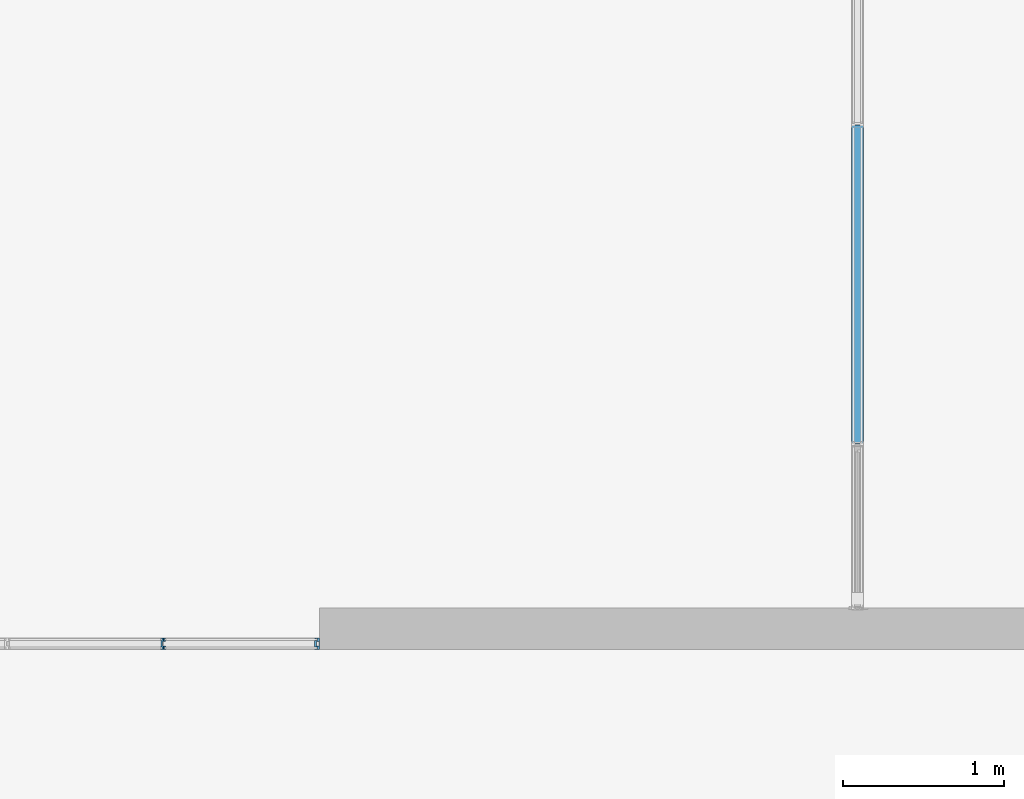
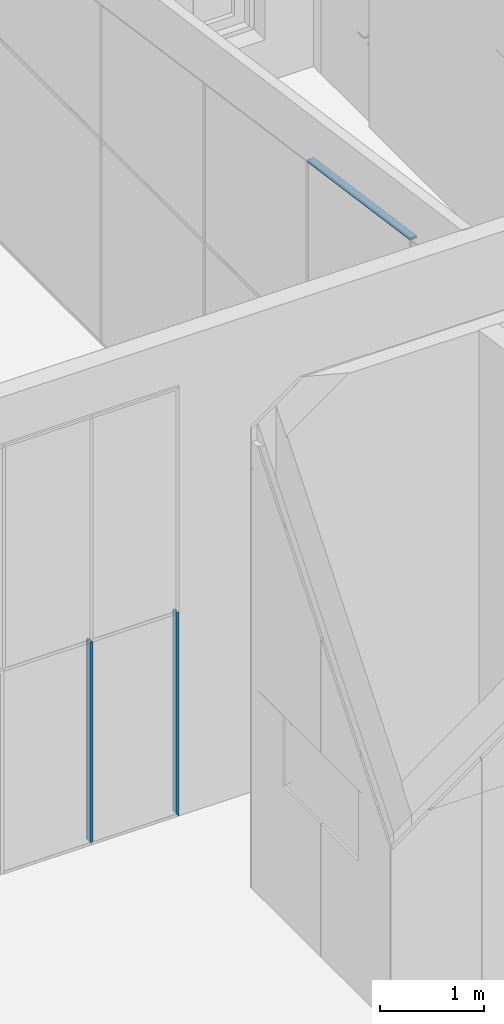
# One storey, part 14 of 246: 3 members, 2 elements without a shape of their own.
"""IFC2X3 building model written with IfcOpenShell, lengths in millimetres."""

from ifc_helpers import new_model, entity, si_unit, converted_unit, derived_unit, money_unit, direction, frame, origin_with_axes, place, context, subcontext, project, spatial, faceted_brep, source, transform, mapped, material, material_list, type_object, element, aggregate, save


model = new_model("IFC2X3")

# Units and contexts
model_context = context("Model", 3, precision=0.01, world=origin_with_axes(), true_north=direction((0.0, 1.0)))
body_context = subcontext(model_context, "Body", "Model", "MODEL_VIEW")
ifc_project = project(units=[si_unit("LENGTHUNIT", "METRE", prefix="MILLI"), si_unit("AREAUNIT", "SQUARE_METRE"), si_unit("VOLUMEUNIT", "CUBIC_METRE"), converted_unit("PLANEANGLEUNIT", "DEGREE", entity("IfcPlaneAngleMeasure", 0.0174532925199), si_unit("PLANEANGLEUNIT", "RADIAN"), dimensions=[0, 0, 0, 0, 0, 0, 0]), si_unit("SOLIDANGLEUNIT", "STERADIAN"), money_unit("EUR"), converted_unit("TIMEUNIT", "Year", entity("IfcTimeMeasure", 31556926.0), si_unit("TIMEUNIT", "SECOND"), dimensions=[0, 0, 1, 0, 0, 0, 0]), si_unit("MASSUNIT", "GRAM", prefix="KILO"), si_unit("THERMODYNAMICTEMPERATUREUNIT", "DEGREE_CELSIUS"), si_unit("LUMINOUSINTENSITYUNIT", "LUMEN"), si_unit("ENERGYUNIT", "JOULE", prefix="MEGA"), derived_unit("THERMALCONDUCTANCEUNIT", [(si_unit("POWERUNIT", "WATT"), 1), (si_unit("LENGTHUNIT", "METRE"), -1), (si_unit("THERMODYNAMICTEMPERATUREUNIT", "KELVIN"), -1)]), derived_unit("SPECIFICHEATCAPACITYUNIT", [(si_unit("ENERGYUNIT", "JOULE"), 1), (si_unit("MASSUNIT", "GRAM", prefix="KILO"), -1), (si_unit("THERMODYNAMICTEMPERATUREUNIT", "KELVIN"), -1)]), derived_unit("MASSDENSITYUNIT", [(si_unit("MASSUNIT", "GRAM", prefix="KILO"), 1), (si_unit("VOLUMEUNIT", "CUBIC_METRE"), -1)])], contexts=[model_context])

# Site, building, storey
site_placement = place(None, origin_with_axes())
site = spatial("IfcSite", under=ifc_project, at=site_placement, Name="L.Koidula tn 11b", CompositionType="ELEMENT")
building_placement = place(site_placement, origin_with_axes())
building = spatial("IfcBuilding", under=site, at=building_placement, Name="Rakvere Riigigümnaasium", CompositionType="ELEMENT")
storey_placement = place(building_placement, origin_with_axes())
storey = spatial("IfcBuildingStorey", under=building, at=storey_placement, Name="1.korrus 0,00", CompositionType="ELEMENT", Elevation=0.0)

# Curtain wall, member
curtain_wall_type = type_object("IfcCurtainWallType", Name="Curtain Wall Type", PredefinedType="NOTDEFINED")
curtain_wall_1_placement = place(storey_placement, frame((32835.0202258, 67589.2016838, 0.0), z_axis=(0.0, 0.0, 1.0), x_axis=(1.0, 0.0, 0.0)))
curtain_wall_1 = element("IfcCurtainWall", 1, at=curtain_wall_1_placement, inside=storey, type_object=curtain_wall_type, Name="SKLF-02")
ifc_material_1 = material(Name="Klaasvill")
ifc_material_2 = material(Name="Teras RAL7012")
ifc_material_list = material_list([ifc_material_1, ifc_material_2])
member_type_1 = type_object("IfcMemberType", Name="Boundary Frame 30 x 42", PredefinedType="MULLION")
shared_shape_1 = source(origin_with_axes(), body_context, "Body", "Brep", [
    faceted_brep([(7.49999990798, 15.000000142, -1.53444652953e-06), (13.8499999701, 15.000000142, -1.53444652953e-06), (13.8499999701, 15.000000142, 2007.53714433), (7.49999990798, 15.000000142, 2007.53714433), (7.49999990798, 29.0161444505, -1.53444652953e-06), (13.8499999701, 29.0161444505, -1.53444652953e-06), (13.8499999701, 29.0161444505, 2007.53714433), (7.49999990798, 29.0161444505, 2007.53714433)], [[[0, 1, 2, 3]], [[0, 4, 5, 1]], [[1, 5, 6, 2]], [[3, 2, 6, 7]], [[4, 0, 3, 7]], [[5, 4, 7, 6]]]),
    faceted_brep([(24.987414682, 29.0161444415, -1.53444652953e-06), (25.004489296, 27.0307503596, -1.53444652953e-06), (25.004489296, 27.0307503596, 2007.53714433), (24.987414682, 29.0161444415, 2007.53714433), (28.5126239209, 29.0161444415, -1.53444652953e-06), (28.7655837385, 28.0385325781, -1.53444652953e-06), (28.4955493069, 27.0307503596, -1.53444652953e-06), (27.75780152, 26.2930025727, -1.53444652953e-06), (26.7500193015, 26.0229681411, -1.53444652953e-06), (25.742237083, 26.2930025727, -1.53444652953e-06), (25.742237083, 26.2930025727, 2007.53714433), (26.7500193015, 26.0229681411, 2007.53714433), (27.75780152, 26.2930025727, 2007.53714433), (28.4955493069, 27.0307503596, 2007.53714433), (28.7655837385, 28.0385325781, 2007.53714433), (28.5126239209, 29.0161444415, 2007.53714433)], [[[0, 1, 2, 3]], [[0, 4, 5, 6, 7, 8, 9, 1]], [[1, 9, 10, 2]], [[3, 2, 10, 11, 12, 13, 14, 15]], [[4, 0, 3, 15]], [[5, 4, 15, 14]], [[6, 5, 14, 13]], [[7, 6, 13, 12]], [[8, 7, 12, 11]], [[9, 8, 11, 10]]]),
    faceted_brep([(7.49999990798, -24.9999997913, -1.53444652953e-06), (7.49999990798, -39.0161445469, -1.53444652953e-06), (7.49999990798, -39.0161445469, 2007.53714433), (7.49999990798, -24.9999997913, 2007.53714433), (13.8499999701, -24.9999997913, -1.53444652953e-06), (13.8499999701, -39.0161445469, -1.53444652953e-06), (13.8499999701, -39.0161445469, 2007.53714433), (13.8499999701, -24.9999997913, 2007.53714433)], [[[0, 1, 2, 3]], [[0, 4, 5, 1]], [[1, 5, 6, 2]], [[3, 2, 6, 7]], [[4, 0, 3, 7]], [[5, 4, 7, 6]]]),
    faceted_brep([(25.004489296, -37.0307503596, -1.53444652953e-06), (24.987414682, -39.0161444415, -1.53444652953e-06), (24.987414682, -39.0161444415, 2007.53714433), (25.004489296, -37.0307503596, 2007.53714433), (25.742237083, -36.2930025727, -1.53444652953e-06), (26.7500193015, -36.0229681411, -1.53444652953e-06), (27.75780152, -36.2930025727, -1.53444652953e-06), (28.4955493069, -37.0307503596, -1.53444652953e-06), (28.7655837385, -38.0385325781, -1.53444652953e-06), (28.5126239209, -39.0161444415, -1.53444652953e-06), (28.5126239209, -39.0161444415, 2007.53714433), (28.7655837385, -38.0385325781, 2007.53714433), (28.4955493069, -37.0307503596, 2007.53714433), (27.75780152, -36.2930025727, 2007.53714433), (26.7500193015, -36.0229681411, 2007.53714433), (25.742237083, -36.2930025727, 2007.53714433)], [[[0, 1, 2, 3]], [[0, 4, 5, 6, 7, 8, 9, 1]], [[1, 9, 10, 2]], [[3, 2, 10, 11, 12, 13, 14, 15]], [[4, 0, 3, 15]], [[5, 4, 15, 14]], [[6, 5, 14, 13]], [[7, 6, 13, 12]], [[8, 7, 12, 11]], [[9, 8, 11, 10]]]),
    faceted_brep([(0.0, -22.0000000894, -1.53444652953e-06), (29.5999996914, -22.0000000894, -1.53444652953e-06), (29.5999996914, -22.0000000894, 2007.53714433), (0.0, -22.0000000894, 2007.53714433), (0.0, 12.0000000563, -1.53444652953e-06), (29.5999996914, 12.0000000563, -1.53444652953e-06), (1.9999999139, 10.0000001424, -1.53444652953e-06), (1.9999999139, -20.0000001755, -1.53444652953e-06), (18.7999996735, -20.0000001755, -1.53444652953e-06), (18.7999996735, 10.0000001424, -1.53444652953e-06), (29.5999996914, 12.0000000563, 2007.53714433), (0.0, 12.0000000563, 2007.53714433), (1.9999999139, 10.0000001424, 2007.53714433), (18.7999996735, 10.0000001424, 2007.53714433), (18.7999996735, -20.0000001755, 2007.53714433), (1.9999999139, -20.0000001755, 2007.53714433)], [[[0, 1, 2, 3]], [[0, 4, 5, 1], [6, 7, 8, 9]], [[1, 5, 10, 2]], [[3, 2, 10, 11], [12, 13, 14, 15]], [[4, 0, 3, 11]], [[5, 4, 11, 10]], [[7, 6, 12, 15]], [[8, 7, 15, 14]], [[9, 8, 14, 13]], [[6, 9, 13, 12]]]),
    faceted_brep([(0.0, 12.0, -1.53444652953e-06), (29.5999996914, 12.0000000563, -1.53444652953e-06), (29.5999996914, 12.0000000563, 2007.53714433), (0.0, 12.0, 2007.53714433), (0.0, 32.0, -1.53444652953e-06), (30.0000193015, 32.0, -1.53444652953e-06), (30.0000193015, 29.0161444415, -1.53444652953e-06), (28.5126239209, 29.0161444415, -1.53444652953e-06), (24.987414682, 29.0161444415, -1.53444652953e-06), (13.8499999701, 29.0161444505, -1.53444652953e-06), (7.49999999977, 29.0161444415, -1.53444652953e-06), (7.49999999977, 15.0, -1.53444652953e-06), (13.8499999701, 15.000000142, -1.53444652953e-06), (30.0000193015, 15.0, -1.53444652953e-06), (30.0000193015, 12.0, -1.53444652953e-06), (30.0000193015, 12.0, 2007.53714433), (30.0000193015, 15.0, 2007.53714433), (13.8499999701, 15.000000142, 2007.53714433), (7.49999999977, 15.0, 2007.53714433), (7.49999999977, 29.0161444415, 2007.53714433), (13.8499999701, 29.0161444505, 2007.53714433), (24.987414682, 29.0161444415, 2007.53714433), (28.5126239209, 29.0161444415, 2007.53714433), (30.0000193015, 29.0161444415, 2007.53714433), (30.0000193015, 32.0, 2007.53714433), (0.0, 32.0, 2007.53714433)], [[[0, 1, 2, 3]], [[0, 4, 5, 6, 7, 8, 9, 10, 11, 12, 13, 14, 1]], [[1, 14, 15, 2]], [[3, 2, 15, 16, 17, 18, 19, 20, 21, 22, 23, 24, 25]], [[4, 0, 3, 25]], [[5, 4, 25, 24]], [[6, 5, 24, 23]], [[7, 6, 23, 22]], [[8, 7, 22, 21]], [[9, 8, 21, 20]], [[10, 9, 20, 19]], [[11, 10, 19, 18]], [[12, 11, 18, 17]], [[13, 12, 17, 16]], [[14, 13, 16, 15]]]),
    faceted_brep([(0.0, -22.0, -1.53444652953e-06), (0.0, -42.0, -1.53444652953e-06), (0.0, -42.0, 2007.53714433), (0.0, -22.0, 2007.53714433), (29.5999996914, -22.0000000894, -1.53444652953e-06), (30.0000193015, -22.0, -1.53444652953e-06), (30.0000193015, -25.0, -1.53444652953e-06), (13.8499999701, -24.9999997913, -1.53444652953e-06), (7.49999999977, -25.0, -1.53444652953e-06), (7.49999999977, -39.0161444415, -1.53444652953e-06), (13.8499999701, -39.0161445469, -1.53444652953e-06), (24.987414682, -39.0161444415, -1.53444652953e-06), (28.5126239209, -39.0161444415, -1.53444652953e-06), (30.0000193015, -39.0161444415, -1.53444652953e-06), (30.0000193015, -42.0, -1.53444652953e-06), (30.0000193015, -42.0, 2007.53714433), (30.0000193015, -39.0161444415, 2007.53714433), (28.5126239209, -39.0161444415, 2007.53714433), (24.987414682, -39.0161444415, 2007.53714433), (13.8499999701, -39.0161445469, 2007.53714433), (7.49999999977, -39.0161444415, 2007.53714433), (7.49999999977, -25.0, 2007.53714433), (13.8499999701, -24.9999997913, 2007.53714433), (30.0000193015, -25.0, 2007.53714433), (30.0000193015, -22.0, 2007.53714433), (29.5999996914, -22.0000000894, 2007.53714433)], [[[0, 1, 2, 3]], [[0, 4, 5, 6, 7, 8, 9, 10, 11, 12, 13, 14, 1]], [[1, 14, 15, 2]], [[3, 2, 15, 16, 17, 18, 19, 20, 21, 22, 23, 24, 25]], [[4, 0, 3, 25]], [[5, 4, 25, 24]], [[6, 5, 24, 23]], [[7, 6, 23, 22]], [[8, 7, 22, 21]], [[9, 8, 21, 20]], [[10, 9, 20, 19]], [[11, 10, 19, 18]], [[12, 11, 18, 17]], [[13, 12, 17, 16]], [[14, 13, 16, 15]]]),
])
member_1_placement = place(curtain_wall_1_placement, frame((0.0, -4968.75, 4868.37541486), z_axis=(0.0, 0.99001904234, -0.140933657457), x_axis=(0.0, -0.140933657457, -0.99001904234)))
member_1 = element("IfcMember", 2, at=member_1_placement, type_object=member_type_1, material=ifc_material_list, Name="SKLF-14-raam", ObjectType="MULLION", context=body_context, shape_type="MappedRepresentation", body=[
    mapped(shared_shape_1, transform((0.0, 0.0, 0.0))),
])
aggregate(curtain_wall_1, [member_1])

# Curtain wall, members
curtain_wall_2_placement = place(storey_placement, frame((26572.4999007, 61372.4546496, 0.0), z_axis=(0.0, 0.0, 1.0), x_axis=(1.0, 0.0, 0.0)))
curtain_wall_2 = element("IfcCurtainWall", 3, at=curtain_wall_2_placement, inside=storey, type_object=curtain_wall_type, Name="SKLF-01")
member_type_2 = type_object("IfcMemberType", Name="Siseklaasfassaad-Vaheprofiil-Doubleline30 34 x 42", PredefinedType="MULLION")
shared_shape_2 = source(origin_with_axes(), body_context, "Body", "Brep", [
    faceted_brep([(15.5126239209, 29.0161444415, 2384.48737608), (15.7655837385, 28.0385325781, 2384.23441626), (15.7655837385, 28.0385325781, 30.0000193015), (15.5126239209, 29.0161444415, 30.0000193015), (15.4955493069, 27.0307503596, 2384.50445069), (11.987414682, 29.0161444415, 2388.01258532), (12.004489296, 27.0307503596, 2387.9955107), (12.742237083, 26.2930025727, 2387.25776292), (13.7500193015, 26.0229681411, 2386.2499807), (14.75780152, 26.2930025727, 2385.24219848), (15.4955493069, 27.0307503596, 30.0000193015), (14.75780152, 26.2930025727, 30.0000193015), (13.7500193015, 26.0229681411, 30.0000193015), (12.742237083, 26.2930025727, 30.0000193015), (12.004489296, 27.0307503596, 30.0000193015), (11.987414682, 29.0161444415, 30.0000193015)], [[[0, 1, 2, 3]], [[4, 1, 0, 5, 6, 7, 8, 9]], [[1, 4, 10, 2]], [[2, 10, 11, 12, 13, 14, 15, 3]], [[5, 0, 3, 15]], [[6, 5, 15, 14]], [[7, 6, 14, 13]], [[8, 7, 13, 12]], [[9, 8, 12, 11]], [[4, 9, 11, 10]]]),
    faceted_brep([(15.4955493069, -37.0307503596, 2384.50445069), (15.5126239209, -39.0161444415, 2384.48737608), (15.5126239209, -39.0161444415, 30.0000193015), (15.4955493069, -37.0307503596, 30.0000193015), (11.987414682, -39.0161444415, 2388.01258532), (14.75780152, -36.2930025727, 2385.24219848), (13.7500193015, -36.0229681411, 2386.2499807), (12.742237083, -36.2930025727, 2387.25776292), (12.004489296, -37.0307503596, 2387.9955107), (11.7344548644, -38.0385325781, 2388.26554514), (11.987414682, -39.0161444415, 30.0000193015), (11.7344548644, -38.0385325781, 30.0000193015), (12.004489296, -37.0307503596, 30.0000193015), (12.742237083, -36.2930025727, 30.0000193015), (13.7500193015, -36.0229681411, 30.0000193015), (14.75780152, -36.2930025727, 30.0000193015)], [[[0, 1, 2, 3]], [[4, 1, 0, 5, 6, 7, 8, 9]], [[1, 4, 10, 2]], [[2, 10, 11, 12, 13, 14, 15, 3]], [[5, 0, 3, 15]], [[6, 5, 15, 14]], [[7, 6, 14, 13]], [[8, 7, 13, 12]], [[9, 8, 12, 11]], [[4, 9, 11, 10]]]),
    faceted_brep([(-11.987414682, 29.0161444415, 2388.01258532), (-11.7344548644, 28.0385325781, 2388.26554514), (-11.7344548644, 28.0385325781, 30.0000193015), (-11.987414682, 29.0161444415, 30.0000193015), (-12.004489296, 27.0307503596, 2387.9955107), (-15.7655837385, 28.0385325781, 2384.23441626), (-15.4955493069, 27.0307503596, 2384.50445069), (-14.75780152, 26.2930025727, 2385.24219848), (-13.7500193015, 26.0229681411, 2386.2499807), (-12.742237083, 26.2930025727, 2387.25776292), (-12.004489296, 27.0307503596, 30.0000193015), (-12.742237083, 26.2930025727, 30.0000193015), (-13.7500193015, 26.0229681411, 30.0000193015), (-14.75780152, 26.2930025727, 30.0000193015), (-15.4955493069, 27.0307503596, 30.0000193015), (-15.7655837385, 28.0385325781, 30.0000193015)], [[[0, 1, 2, 3]], [[4, 1, 0, 5, 6, 7, 8, 9]], [[1, 4, 10, 2]], [[2, 10, 11, 12, 13, 14, 15, 3]], [[5, 0, 3, 15]], [[6, 5, 15, 14]], [[7, 6, 14, 13]], [[8, 7, 13, 12]], [[9, 8, 12, 11]], [[4, 9, 11, 10]]]),
    faceted_brep([(-12.004489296, -37.0307503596, 2387.9955107), (-11.7344548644, -38.0385325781, 2388.26554514), (-11.7344548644, -38.0385325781, 30.0000193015), (-12.004489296, -37.0307503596, 30.0000193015), (-11.987414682, -39.0161444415, 2388.01258532), (-12.742237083, -36.2930025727, 2387.25776292), (-13.7500193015, -36.0229681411, 2386.2499807), (-14.75780152, -36.2930025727, 2385.24219848), (-15.4955493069, -37.0307503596, 2384.50445069), (-15.5126239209, -39.0161444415, 2384.48737608), (-11.987414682, -39.0161444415, 30.0000193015), (-15.5126239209, -39.0161444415, 30.0000193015), (-15.4955493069, -37.0307503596, 30.0000193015), (-14.75780152, -36.2930025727, 30.0000193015), (-13.7500193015, -36.0229681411, 30.0000193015), (-12.742237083, -36.2930025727, 30.0000193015)], [[[0, 1, 2, 3]], [[4, 1, 0, 5, 6, 7, 8, 9]], [[1, 4, 10, 2]], [[2, 10, 11, 12, 13, 14, 15, 3]], [[5, 0, 3, 15]], [[6, 5, 15, 14]], [[7, 6, 14, 13]], [[8, 7, 13, 12]], [[9, 8, 12, 11]], [[4, 9, 11, 10]]]),
    faceted_brep([(4.0000003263, -20.0000001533, 2395.99999967), (4.0000003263, 10.0000001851, 2395.99999967), (4.0000003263, 10.0000001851, 30.0000193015), (4.0000003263, -20.0000001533, 30.0000193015), (14.8000003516, -22.0000000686, 2385.19999965), (14.8000003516, 12.0000001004, 2385.19999965), (0.0, 12.0000001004, 2400.0), (0.0, 10.0000001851, 2400.0), (0.0, -20.0000001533, 2400.0), (0.0, -22.0000000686, 2400.0), (-12.8000002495, 10.0000001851, 2387.19999975), (-12.8000002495, 10.0000001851, 30.0000193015), (14.8000003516, -22.0000000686, 30.0000193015), (-3.05044456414e-07, -22.0000000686, 30.0000193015), (-14.8000001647, -22.0000000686, 30.0000193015), (-14.8000001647, 12.0000001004, 30.0000193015), (-3.05044456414e-07, 12.0000001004, 30.0000193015), (14.8000003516, 12.0000001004, 30.0000193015), (-12.8000002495, -20.0000001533, 30.0000193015), (-12.8000002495, -20.0000001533, 2387.19999975), (-14.8000001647, 12.0000001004, 2385.19999984), (-14.8000001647, -22.0000000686, 2385.19999984)], [[[0, 1, 2, 3]], [[4, 5, 6, 7, 1, 0, 8, 9]], [[7, 10, 11, 2, 1]], [[12, 13, 14, 15, 16, 17], [2, 11, 18, 3]], [[8, 0, 3, 18, 19]], [[5, 4, 12, 17]], [[6, 5, 17, 16]], [[6, 20, 21, 9, 8, 19, 10, 7]], [[4, 9, 13, 12]], [[10, 19, 18, 11]], [[9, 21, 14, 13]], [[21, 20, 15, 14]], [[20, 6, 16, 15]]]),
    faceted_brep([(0.0, 32.0000000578, 2400.0), (17.0000193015, 32.0000000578, 2382.9999807), (17.0000193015, 32.0000000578, 30.0000193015), (0.0, 32.0000000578, 30.0000193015), (17.0000193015, 29.0161446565, 2382.9999807), (0.0, 12.0, 2400.0), (14.8000003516, 12.0000001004, 2385.19999965), (17.0000193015, 12.0, 2382.9999807), (17.0000193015, 15.0000000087, 2382.9999807), (7.50000002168, 15.0000000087, 2392.49999998), (7.50000002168, 29.0161446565, 2392.49999998), (11.987414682, 29.0161444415, 2388.01258532), (15.5126239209, 29.0161444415, 2384.48737608), (17.0000193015, 29.0161446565, 30.0000193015), (15.5126239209, 29.0161444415, 30.0000193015), (11.987414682, 29.0161444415, 30.0000193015), (7.50000002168, 29.0161446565, 30.0000193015), (7.50000002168, 15.0000000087, 30.0000193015), (17.0000193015, 15.0000000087, 30.0000193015), (17.0000193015, 12.0, 30.0000193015), (14.8000003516, 12.0000001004, 30.0000193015), (0.0, 12.0, 30.0000193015)], [[[0, 1, 2, 3]], [[4, 1, 0, 5, 6, 7, 8, 9, 10, 11, 12]], [[1, 4, 13, 2]], [[2, 13, 14, 15, 16, 17, 18, 19, 20, 21, 3]], [[5, 0, 3, 21]], [[6, 5, 21, 20]], [[7, 6, 20, 19]], [[8, 7, 19, 18]], [[9, 8, 18, 17]], [[10, 9, 17, 16]], [[11, 10, 16, 15]], [[12, 11, 15, 14]], [[4, 12, 14, 13]]]),
    faceted_brep([(14.8000003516, -22.0000000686, 2385.19999965), (17.0000193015, -21.9999999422, 2382.9999807), (17.0000193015, -21.9999999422, 30.0000193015), (14.8000003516, -22.0000000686, 30.0000193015), (17.0000193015, -24.9999999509, 2382.9999807), (0.0, -21.9999999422, 2400.0), (0.0, -42.0, 2400.0), (17.0000193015, -42.0, 2382.9999807), (17.0000193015, -39.0161445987, 2382.9999807), (15.5126239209, -39.0161444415, 2384.48737608), (11.987414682, -39.0161444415, 2388.01258532), (7.50000002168, -39.0161445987, 2392.49999998), (7.50000002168, -24.9999999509, 2392.49999998), (17.0000193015, -24.9999999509, 30.0000193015), (7.50000002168, -24.9999999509, 30.0000193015), (7.50000002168, -39.0161445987, 30.0000193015), (11.987414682, -39.0161444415, 30.0000193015), (15.5126239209, -39.0161444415, 30.0000193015), (17.0000193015, -39.0161445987, 30.0000193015), (17.0000193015, -42.0, 30.0000193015), (0.0, -42.0, 30.0000193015), (0.0, -21.9999999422, 30.0000193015)], [[[0, 1, 2, 3]], [[4, 1, 0, 5, 6, 7, 8, 9, 10, 11, 12]], [[1, 4, 13, 2]], [[2, 13, 14, 15, 16, 17, 18, 19, 20, 21, 3]], [[5, 0, 3, 21]], [[6, 5, 21, 20]], [[7, 6, 20, 19]], [[8, 7, 19, 18]], [[9, 8, 18, 17]], [[10, 9, 17, 16]], [[11, 10, 16, 15]], [[12, 11, 15, 14]], [[4, 12, 14, 13]]]),
    faceted_brep([(-17.0000193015, 32.0, 2382.9999807), (0.0, 32.0, 2400.0), (0.0, 32.0, 30.0000193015), (-17.0000193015, 32.0, 30.0000193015), (-17.0000193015, 29.0161444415, 2382.9999807), (-15.5126239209, 29.0161444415, 2384.48737608), (-11.987414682, 29.0161444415, 2388.01258532), (-7.49999999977, 29.0161444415, 2392.5), (-7.49999999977, 15.0, 2392.5), (-17.0000193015, 15.0, 2382.9999807), (-17.0000193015, 12.0, 2382.9999807), (-14.8000001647, 12.0000001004, 2385.19999984), (0.0, 12.0, 2400.0), (0.0, 12.0, 30.0000193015), (-14.8000001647, 12.0000001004, 30.0000193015), (-17.0000193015, 12.0, 30.0000193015), (-17.0000193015, 15.0, 30.0000193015), (-7.49999999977, 15.0, 30.0000193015), (-7.49999999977, 29.0161444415, 30.0000193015), (-11.987414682, 29.0161444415, 30.0000193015), (-15.5126239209, 29.0161444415, 30.0000193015), (-17.0000193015, 29.0161444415, 30.0000193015)], [[[0, 1, 2, 3]], [[1, 0, 4, 5, 6, 7, 8, 9, 10, 11, 12]], [[1, 12, 13, 2]], [[2, 13, 14, 15, 16, 17, 18, 19, 20, 21, 3]], [[4, 0, 3, 21]], [[5, 4, 21, 20]], [[6, 5, 20, 19]], [[7, 6, 19, 18]], [[8, 7, 18, 17]], [[9, 8, 17, 16]], [[10, 9, 16, 15]], [[11, 10, 15, 14]], [[12, 11, 14, 13]]]),
    faceted_brep([(-14.8000001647, -22.0000000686, 2385.19999984), (0.0, -22.0, 2400.0), (0.0, -22.0, 30.0000193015), (-14.8000001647, -22.0000000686, 30.0000193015), (-17.0000193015, -22.0, 2382.9999807), (-17.0000193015, -25.0, 2382.9999807), (-7.49999999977, -25.0, 2392.5), (-7.49999999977, -39.0161444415, 2392.5), (-11.987414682, -39.0161444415, 2388.01258532), (-15.5126239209, -39.0161444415, 2384.48737608), (-17.0000193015, -39.0161444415, 2382.9999807), (-17.0000193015, -42.0, 2382.9999807), (0.0, -42.0, 2400.0), (0.0, -42.0, 30.0000193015), (-17.0000193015, -42.0, 30.0000193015), (-17.0000193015, -39.0161444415, 30.0000193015), (-15.5126239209, -39.0161444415, 30.0000193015), (-11.987414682, -39.0161444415, 30.0000193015), (-7.49999999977, -39.0161444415, 30.0000193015), (-7.49999999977, -25.0, 30.0000193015), (-17.0000193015, -25.0, 30.0000193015), (-17.0000193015, -22.0, 30.0000193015)], [[[0, 1, 2, 3]], [[1, 0, 4, 5, 6, 7, 8, 9, 10, 11, 12]], [[1, 12, 13, 2]], [[2, 13, 14, 15, 16, 17, 18, 19, 20, 21, 3]], [[4, 0, 3, 21]], [[5, 4, 21, 20]], [[6, 5, 20, 19]], [[7, 6, 19, 18]], [[8, 7, 18, 17]], [[9, 8, 17, 16]], [[10, 9, 16, 15]], [[11, 10, 15, 14]], [[12, 11, 14, 13]]]),
])
member_2_placement = place(curtain_wall_2_placement, frame((1945.0, 0.0, 0.0), z_axis=(0.0, 0.0, 1.0), x_axis=(-1.0, 0.0, 0.0)))
member_2 = element("IfcMember", 4, at=member_2_placement, type_object=member_type_2, material=ifc_material_list, Name="Frame-Siseklaasf-021", ObjectType="MULLION", context=body_context, shape_type="MappedRepresentation", body=[
    mapped(shared_shape_2, transform((0.0, 0.0, 0.0))),
])
shared_shape_3 = source(origin_with_axes(), body_context, "Body", "Brep", [
    faceted_brep([(13.8499999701, 15.000000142, 13.8500000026), (13.8499999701, 15.000000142, 2400.00000045), (7.49999990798, 15.000000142, 2400.00000045), (7.49999990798, 15.000000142, 7.49999992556), (13.8499999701, 29.0161444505, 13.8500000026), (13.8499999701, 29.0161444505, 2400.00000045), (7.49999990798, 29.0161444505, 2400.00000045), (7.49999990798, 29.0161444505, 7.49999992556)], [[[0, 1, 2, 3]], [[4, 5, 1, 0]], [[2, 1, 5, 6]], [[3, 2, 6, 7]], [[3, 7, 4, 0]], [[7, 6, 5, 4]]]),
    faceted_brep([(25.004489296, 27.0307503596, 25.0044893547), (25.004489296, 27.0307503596, 2400.00000045), (24.987414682, 29.0161444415, 2400.00000045), (24.987414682, 29.0161444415, 24.9874147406), (25.742237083, 26.2930025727, 25.7422371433), (25.742237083, 26.2930025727, 2400.00000045), (26.7500193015, 26.0229681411, 2400.00000045), (27.75780152, 26.2930025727, 2400.00000045), (28.4955493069, 27.0307503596, 2400.00000045), (28.7655837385, 28.0385325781, 2400.00000045), (28.5126239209, 29.0161444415, 2400.00000045), (28.5126239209, 29.0161444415, 28.5126239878), (28.7655837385, 28.0385325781, 28.765583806), (28.4955493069, 27.0307503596, 28.4955493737), (27.75780152, 26.2930025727, 27.7578015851), (26.7500193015, 26.0229681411, 26.7500193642)], [[[0, 1, 2, 3]], [[4, 5, 1, 0]], [[2, 1, 5, 6, 7, 8, 9, 10]], [[3, 2, 10, 11]], [[3, 11, 12, 13, 14, 15, 4, 0]], [[15, 6, 5, 4]], [[14, 7, 6, 15]], [[13, 8, 7, 14]], [[12, 9, 8, 13]], [[11, 10, 9, 12]]]),
    faceted_brep([(7.49999990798, -39.0161445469, 7.49999992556), (7.49999990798, -39.0161445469, 2400.00000045), (7.49999990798, -24.9999997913, 2400.00000045), (7.49999990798, -24.9999997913, 7.49999992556), (13.8499999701, -39.0161445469, 13.8500000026), (13.8499999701, -39.0161445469, 2400.00000045), (13.8499999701, -24.9999997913, 2400.00000045), (13.8499999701, -24.9999997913, 13.8500000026)], [[[0, 1, 2, 3]], [[4, 5, 1, 0]], [[2, 1, 5, 6]], [[3, 2, 6, 7]], [[3, 7, 4, 0]], [[7, 6, 5, 4]]]),
    faceted_brep([(24.987414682, -39.0161444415, 24.9874147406), (24.987414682, -39.0161444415, 2400.00000045), (25.004489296, -37.0307503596, 2400.00000045), (25.004489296, -37.0307503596, 25.0044893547), (28.5126239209, -39.0161444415, 28.5126239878), (28.5126239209, -39.0161444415, 2400.00000045), (28.7655837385, -38.0385325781, 2400.00000045), (28.4955493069, -37.0307503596, 2400.00000045), (27.75780152, -36.2930025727, 2400.00000045), (26.7500193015, -36.0229681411, 2400.00000045), (25.742237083, -36.2930025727, 2400.00000045), (25.742237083, -36.2930025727, 25.7422371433), (26.7500193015, -36.0229681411, 26.7500193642), (27.75780152, -36.2930025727, 27.7578015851), (28.4955493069, -37.0307503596, 28.4955493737), (28.7655837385, -38.0385325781, 28.765583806)], [[[0, 1, 2, 3]], [[4, 5, 1, 0]], [[2, 1, 5, 6, 7, 8, 9, 10]], [[3, 2, 10, 11]], [[3, 11, 12, 13, 14, 15, 4, 0]], [[15, 6, 5, 4]], [[14, 7, 6, 15]], [[13, 8, 7, 14]], [[12, 9, 8, 13]], [[11, 10, 9, 12]]]),
    faceted_brep([(29.5999996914, -22.0000000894, 29.5999997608), (29.5999996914, -22.0000000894, 2400.00000045), (0.0, -22.0000000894, 2400.00000045), (0.0, -22.0000000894, 0.0), (29.5999996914, 12.0000000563, 29.5999997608), (29.5999996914, 12.0000000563, 2400.00000045), (0.0, 12.0000000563, 2400.00000045), (1.9999999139, 10.0000001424, 2400.00000045), (18.7999996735, 10.0000001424, 2400.00000045), (18.7999996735, -20.0000001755, 2400.00000045), (1.9999999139, -20.0000001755, 2400.00000045), (0.0, 12.0000000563, 0.0), (1.9999999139, 10.0000001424, 1.99999991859), (1.9999999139, -20.0000001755, 1.99999991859), (18.7999996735, -20.0000001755, 18.7999997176), (18.7999996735, 10.0000001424, 18.7999997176)], [[[0, 1, 2, 3]], [[4, 5, 1, 0]], [[2, 1, 5, 6], [7, 8, 9, 10]], [[3, 2, 6, 11]], [[3, 11, 4, 0], [12, 13, 14, 15]], [[11, 6, 5, 4]], [[15, 8, 7, 12]], [[14, 9, 8, 15]], [[13, 10, 9, 14]], [[12, 7, 10, 13]]]),
    faceted_brep([(29.5999996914, 12.0000000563, 29.5999997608), (29.5999996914, 12.0000000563, 2400.00000045), (0.0, 12.0, 2400.00000045), (0.0, 12.0, 0.0), (30.0000193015, 12.0, 30.0000193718), (30.0000193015, 12.0, 2400.00000045), (30.0000193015, 15.0, 2400.00000045), (13.8499999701, 15.000000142, 2400.00000045), (7.49999999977, 15.0, 2400.00000045), (7.49999999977, 29.0161444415, 2400.00000045), (13.8499999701, 29.0161444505, 2400.00000045), (24.987414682, 29.0161444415, 2400.00000045), (28.5126239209, 29.0161444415, 2400.00000045), (30.0000193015, 29.0161444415, 2400.00000045), (30.0000193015, 32.0, 2400.00000045), (0.0, 32.0, 2400.00000045), (0.0, 32.0, 0.0), (30.0000193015, 32.0, 30.0000193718), (30.0000193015, 29.0161444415, 30.0000193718), (28.5126239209, 29.0161444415, 28.5126239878), (24.987414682, 29.0161444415, 24.9874147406), (13.8499999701, 29.0161444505, 13.8500000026), (7.49999999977, 29.0161444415, 7.50000001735), (7.49999999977, 15.0, 7.50000001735), (13.8499999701, 15.000000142, 13.8500000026), (30.0000193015, 15.0, 30.0000193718)], [[[0, 1, 2, 3]], [[4, 5, 1, 0]], [[2, 1, 5, 6, 7, 8, 9, 10, 11, 12, 13, 14, 15]], [[3, 2, 15, 16]], [[3, 16, 17, 18, 19, 20, 21, 22, 23, 24, 25, 4, 0]], [[25, 6, 5, 4]], [[24, 7, 6, 25]], [[23, 8, 7, 24]], [[22, 9, 8, 23]], [[21, 10, 9, 22]], [[20, 11, 10, 21]], [[19, 12, 11, 20]], [[18, 13, 12, 19]], [[17, 14, 13, 18]], [[16, 15, 14, 17]]]),
    faceted_brep([(0.0, -42.0, 0.0), (0.0, -42.0, 2400.00000045), (0.0, -22.0, 2400.00000045), (0.0, -22.0, 0.0), (30.0000193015, -42.0, 30.0000193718), (30.0000193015, -42.0, 2400.00000045), (30.0000193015, -39.0161444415, 2400.00000045), (28.5126239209, -39.0161444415, 2400.00000045), (24.987414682, -39.0161444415, 2400.00000045), (13.8499999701, -39.0161445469, 2400.00000045), (7.49999999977, -39.0161444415, 2400.00000045), (7.49999999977, -25.0, 2400.00000045), (13.8499999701, -24.9999997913, 2400.00000045), (30.0000193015, -25.0, 2400.00000045), (30.0000193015, -22.0, 2400.00000045), (29.5999996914, -22.0000000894, 2400.00000045), (29.5999996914, -22.0000000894, 29.5999997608), (30.0000193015, -22.0, 30.0000193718), (30.0000193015, -25.0, 30.0000193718), (13.8499999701, -24.9999997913, 13.8500000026), (7.49999999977, -25.0, 7.50000001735), (7.49999999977, -39.0161444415, 7.50000001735), (13.8499999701, -39.0161445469, 13.8500000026), (24.987414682, -39.0161444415, 24.9874147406), (28.5126239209, -39.0161444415, 28.5126239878), (30.0000193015, -39.0161444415, 30.0000193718)], [[[0, 1, 2, 3]], [[4, 5, 1, 0]], [[2, 1, 5, 6, 7, 8, 9, 10, 11, 12, 13, 14, 15]], [[3, 2, 15, 16]], [[3, 16, 17, 18, 19, 20, 21, 22, 23, 24, 25, 4, 0]], [[25, 6, 5, 4]], [[24, 7, 6, 25]], [[23, 8, 7, 24]], [[22, 9, 8, 23]], [[21, 10, 9, 22]], [[20, 11, 10, 21]], [[19, 12, 11, 20]], [[18, 13, 12, 19]], [[17, 14, 13, 18]], [[16, 15, 14, 17]]]),
])
member_3_placement = place(curtain_wall_2_placement, frame((2917.49009075, 0.0, 0.0), z_axis=(0.0, 0.0, 1.0), x_axis=(-1.0, 0.0, 0.0)))
member_3 = element("IfcMember", 5, at=member_3_placement, type_object=member_type_1, material=ifc_material_list, Name="SKLF-68-raam", ObjectType="MULLION", context=body_context, shape_type="MappedRepresentation", body=[
    mapped(shared_shape_3, transform((0.0, 0.0, 0.0))),
])
aggregate(curtain_wall_2, [member_2, member_3])

save(model, "model.ifc")
